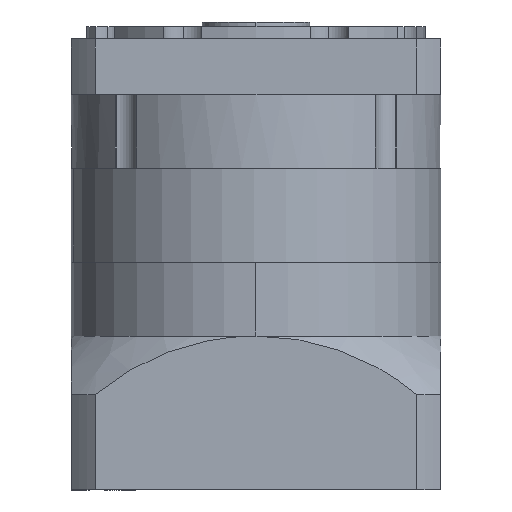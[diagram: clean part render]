
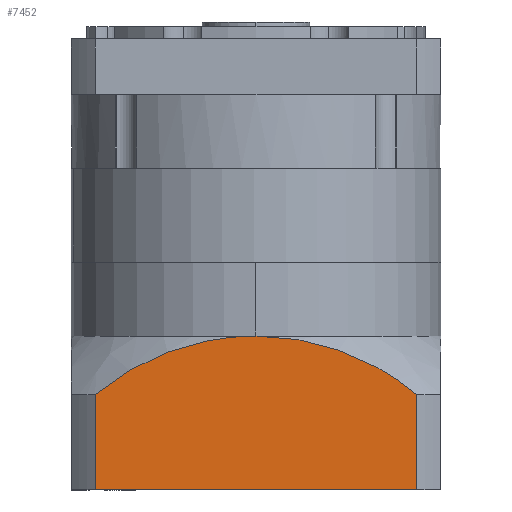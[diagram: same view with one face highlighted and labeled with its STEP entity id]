
A CAD part, left-side view. The second image highlights one B-rep face of the part: STEP entity #7452.
In plain terms, the highlighted planar face has unit normal (-1, 0, 0) as drawn and (0, 1, 0) by its records, which use the part's own axes.
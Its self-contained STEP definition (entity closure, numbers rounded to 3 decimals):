
#732 = CARTESIAN_POINT ( 'NONE',  ( -19.894, 60., -5.464 ) ) ;
#1124 = CARTESIAN_POINT ( 'NONE',  ( 8.294, 60., -3.416 ) ) ;
#2461 = EDGE_CURVE ( 'NONE', #3861, #31650, #37303, .T. ) ;
#3495 = CARTESIAN_POINT ( 'NONE',  ( 52.156, 60., -22. ) ) ;
#3861 = VERTEX_POINT ( 'NONE', #34231 ) ;
#4426 = CARTESIAN_POINT ( 'NONE',  ( -25.577, 60., -7.096 ) ) ;
#4651 = CARTESIAN_POINT ( 'NONE',  ( 39.546, 60., -13.276 ) ) ;
#4812 = CARTESIAN_POINT ( 'NONE',  ( 2.376, 60., -3. ) ) ;
#4849 = FACE_OUTER_BOUND ( 'NONE', #31204, .T. ) ;
#6517 = CARTESIAN_POINT ( 'NONE',  ( -52.156, 60., -22. ) ) ;
#6852 = EDGE_CURVE ( 'NONE', #36664, #3861, #11249, .T. ) ;
#7452 = ADVANCED_FACE ( 'NONE', ( #4849 ), #16167, .T. ) ;
#8115 = CARTESIAN_POINT ( 'NONE',  ( -36.444, 60., -11.486 ) ) ;
#8365 = CARTESIAN_POINT ( 'NONE',  ( 36.409, 60., -11.613 ) ) ;
#11249 = LINE ( 'NONE', #34353, #22030 ) ;
#11667 = CARTESIAN_POINT ( 'NONE',  ( -9.454, 60., -3.414 ) ) ;
#11830 = CARTESIAN_POINT ( 'NONE',  ( -42.555, 60., -15.043 ) ) ;
#12061 = CARTESIAN_POINT ( 'NONE',  ( 32.118, 60., -9.584 ) ) ;
#12182 = CARTESIAN_POINT ( 'NONE',  ( 52.156, 60., -53. ) ) ;
#12425 = ORIENTED_EDGE ( 'NONE', *, *, #6852, .T. ) ;
#15341 = CARTESIAN_POINT ( 'NONE',  ( 0., 60., -3. ) ) ;
#15497 = CARTESIAN_POINT ( 'NONE',  ( -45.542, 60., -16.978 ) ) ;
#15746 = CARTESIAN_POINT ( 'NONE',  ( 23.319, 60., -6.277 ) ) ;
#15942 = EDGE_CURVE ( 'NONE', #34311, #31650, #24791, .T. ) ;
#16128 = DIRECTION ( 'NONE',  ( -1., 0., 0. ) ) ;
#16167 = PLANE ( 'NONE',  #21864 ) ;
#16278 = CARTESIAN_POINT ( 'NONE',  ( -60., 60., -53. ) ) ;
#17240 = DIRECTION ( 'NONE',  ( 0., 1., 0. ) ) ;
#18038 = VECTOR ( 'NONE', #43244, 1000. ) ;
#18537 = EDGE_CURVE ( 'NONE', #37203, #36664, #26261, .T. ) ;
#18961 = CARTESIAN_POINT ( 'NONE',  ( -15.267, 60., -4.438 ) ) ;
#19079 = ORIENTED_EDGE ( 'NONE', *, *, #26262, .F. ) ;
#19130 = CARTESIAN_POINT ( 'NONE',  ( -50.338, 60., -20.469 ) ) ;
#19204 = CARTESIAN_POINT ( 'NONE',  ( 48.52, 60., -18.938 ) ) ;
#19360 = CARTESIAN_POINT ( 'NONE',  ( 12.993, 60., -4.037 ) ) ;
#21635 = ORIENTED_EDGE ( 'NONE', *, *, #15942, .F. ) ;
#21864 = AXIS2_PLACEMENT_3D ( 'NONE', #16278, #17240, #16128 ) ;
#22030 = VECTOR ( 'NONE', #34228, 1000. ) ;
#22611 = CARTESIAN_POINT ( 'NONE',  ( -18.739, 60., -5.181 ) ) ;
#23005 = CARTESIAN_POINT ( 'NONE',  ( 9.477, 60., -3.546 ) ) ;
#23130 = DIRECTION ( 'NONE',  ( 0., 0., -1. ) ) ;
#23499 = ORIENTED_EDGE ( 'NONE', *, *, #18537, .T. ) ;
#24791 = B_SPLINE_CURVE_WITH_KNOTS ( 'NONE', 3,
 ( #15341, #37042, #11667, #18961, #44362, #22611, #732, #26264, #4426, #29931, #8115, #33563, #11830, #37206, #15497, #40865, #19130, #44516 ),
 .UNSPECIFIED., .F., .F.,
 ( 4, 2, 2, 2, 2, 2, 2, 2, 4 ),
 ( 0., 0.014, 0.018, 0.021, 0.028, 0.042, 0.046, 0.05, 0.057 ),
 .UNSPECIFIED. ) ;
#25138 = VECTOR ( 'NONE', #23130, 1000. ) ;
#26261 = LINE ( 'NONE', #12182, #25138 ) ;
#26262 = EDGE_CURVE ( 'NONE', #37203, #34311, #39039, .T. ) ;
#26264 = CARTESIAN_POINT ( 'NONE',  ( -23.329, 60., -6.386 ) ) ;
#26513 = CARTESIAN_POINT ( 'NONE',  ( 44.656, 60., -16.23 ) ) ;
#26665 = CARTESIAN_POINT ( 'NONE',  ( 4.747, 60., -3.104 ) ) ;
#28843 = CARTESIAN_POINT ( 'NONE',  ( 52.156, 60., -53. ) ) ;
#29931 = CARTESIAN_POINT ( 'NONE',  ( -32.196, 60., -9.507 ) ) ;
#30162 = CARTESIAN_POINT ( 'NONE',  ( 38.51, 60., -12.707 ) ) ;
#30313 = CARTESIAN_POINT ( 'NONE',  ( 0., 60., -3. ) ) ;
#31204 = EDGE_LOOP ( 'NONE', ( #23499, #12425, #35541, #21635, #19079 ) ) ;
#31650 = VERTEX_POINT ( 'NONE', #6517 ) ;
#33563 = CARTESIAN_POINT ( 'NONE',  ( -41.545, 60., -14.431 ) ) ;
#33797 = CARTESIAN_POINT ( 'NONE',  ( 35.342, 60., -11.087 ) ) ;
#34228 = DIRECTION ( 'NONE',  ( -1., 0., 0. ) ) ;
#34231 = CARTESIAN_POINT ( 'NONE',  ( -52.156, 60., -53. ) ) ;
#34311 = VERTEX_POINT ( 'NONE', #34977 ) ;
#34353 = CARTESIAN_POINT ( 'NONE',  ( -60., 60., -53. ) ) ;
#34977 = CARTESIAN_POINT ( 'NONE',  ( 0., 60., -3. ) ) ;
#35541 = ORIENTED_EDGE ( 'NONE', *, *, #2461, .T. ) ;
#36664 = VERTEX_POINT ( 'NONE', #28843 ) ;
#37042 = CARTESIAN_POINT ( 'NONE',  ( -4.753, 60., -3. ) ) ;
#37203 = VERTEX_POINT ( 'NONE', #3495 ) ;
#37206 = CARTESIAN_POINT ( 'NONE',  ( -44.553, 60., -16.317 ) ) ;
#37303 = LINE ( 'NONE', #42411, #18038 ) ;
#37441 = CARTESIAN_POINT ( 'NONE',  ( 29.939, 60., -8.683 ) ) ;
#39039 = B_SPLINE_CURVE_WITH_KNOTS ( 'NONE', 3,
 ( #44602, #19204, #26513, #4651, #30162, #8365, #33797, #12061, #37441, #15746, #41094, #19360, #44752, #23005, #1124, #26665, #4812, #30313 ),
 .UNSPECIFIED., .F., .F.,
 ( 4, 2, 2, 2, 2, 2, 2, 2, 4 ),
 ( 0., 0.014, 0.018, 0.021, 0.028, 0.042, 0.046, 0.05, 0.057 ),
 .UNSPECIFIED. ) ;
#40865 = CARTESIAN_POINT ( 'NONE',  ( -48.457, 60., -19.022 ) ) ;
#41094 = CARTESIAN_POINT ( 'NONE',  ( 18.792, 60., -5.062 ) ) ;
#42411 = CARTESIAN_POINT ( 'NONE',  ( -52.156, 60., -53. ) ) ;
#43244 = DIRECTION ( 'NONE',  ( 0., 0., 1. ) ) ;
#44362 = CARTESIAN_POINT ( 'NONE',  ( -16.426, 60., -4.669 ) ) ;
#44516 = CARTESIAN_POINT ( 'NONE',  ( -52.156, 60., -22. ) ) ;
#44602 = CARTESIAN_POINT ( 'NONE',  ( 52.156, 60., -22. ) ) ;
#44752 = CARTESIAN_POINT ( 'NONE',  ( 11.825, 60., -3.856 ) ) ;
